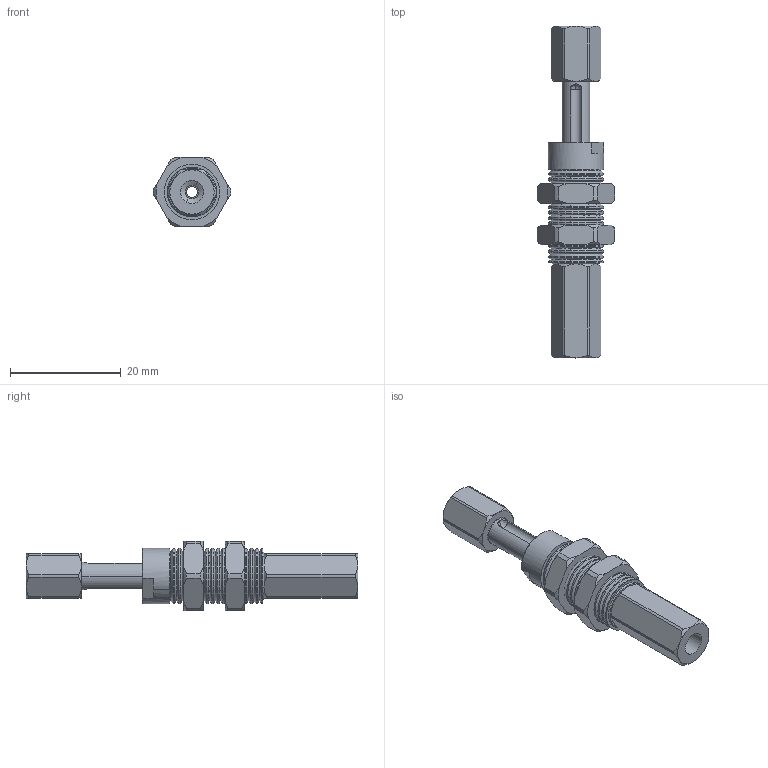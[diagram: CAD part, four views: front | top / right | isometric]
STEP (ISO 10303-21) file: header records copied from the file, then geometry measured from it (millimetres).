
FILE_DESCRIPTION (( 'STEP AP214' ), '1' );
FILE_NAME ('VFNT1011-M5.STEP', '2019-11-15T05:48:20', ( '微软用户' ), ( '微软中国' ), 'SwSTEP 2.0', 'SolidWorks 2016', '' );
FILE_SCHEMA (( 'AUTOMOTIVE_DESIGN' ));
Length unit declared in the file: millimetre
Products named in the file (1): VFNT1011-M5
Bounding box: 14 x 60 x 12.5 mm (x, y, z)
Volume: 3538.9 mm3; surface area: 4703.9 mm2
Topology: 7 solids, 7 shells, 379 faces, 916 edges, 544 vertices
Faces by surface type: cone 193, cylinder 125, plane 47, bspline 14
Entity records: 11908 total; most frequent: CARTESIAN_POINT 3068, DIRECTION 1910, ORIENTED_EDGE 1808, EDGE_CURVE 904, AXIS2_PLACEMENT_3D 796, VERTEX_POINT 544, CIRCLE 430, EDGE_LOOP 400
